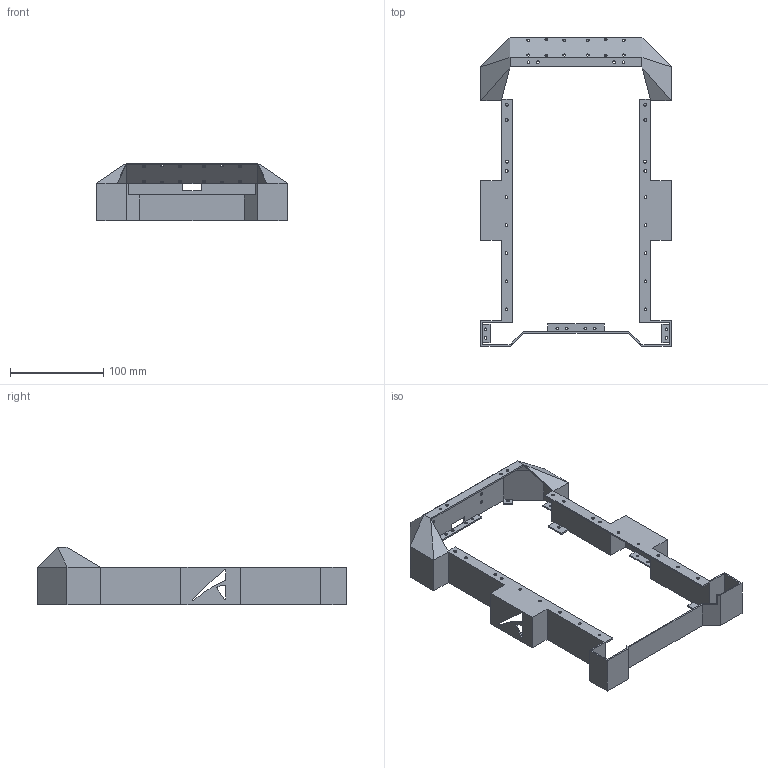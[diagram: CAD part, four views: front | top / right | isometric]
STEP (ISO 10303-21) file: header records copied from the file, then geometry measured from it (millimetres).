
FILE_DESCRIPTION (( 'STEP AP214' ), '1' );
FILE_NAME ('俋褲菴珨脯.STEP', '2023-02-09T03:48:34', ( '' ), ( '' ), 'SwSTEP 2.0', 'SolidWorks 2022', '' );
FILE_SCHEMA (( 'AUTOMOTIVE_DESIGN' ));
Length unit declared in the file: millimetre
Products named in the file (1): 外壳第一层
Bounding box: 204 x 330 x 61.21 mm (x, y, z)
Volume: 95707.9 mm3; surface area: 135349.9 mm2
Topology: 1 solids, 1 shells, 312 faces, 904 edges, 592 vertices
Faces by surface type: plane 174, cylinder 134, bspline 4
Entity records: 10628 total; most frequent: CARTESIAN_POINT 1845, ORIENTED_EDGE 1808, DIRECTION 1782, EDGE_CURVE 904, VECTOR 628, LINE 628, VERTEX_POINT 592, AXIS2_PLACEMENT_3D 577
